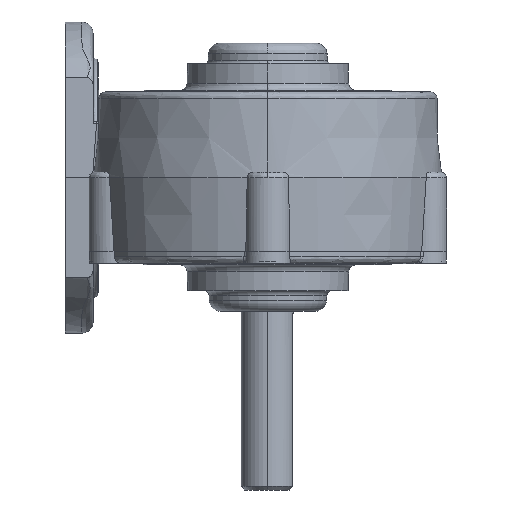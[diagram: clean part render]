
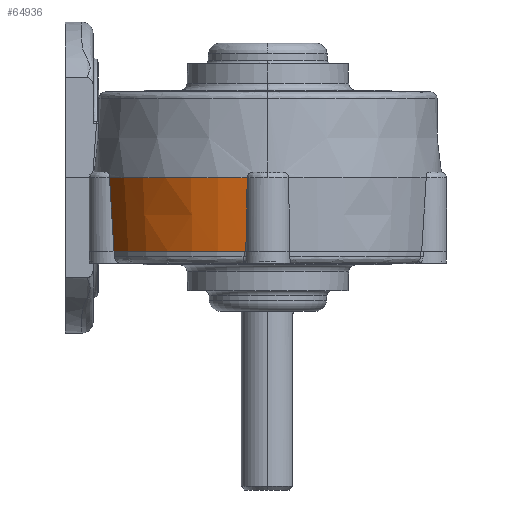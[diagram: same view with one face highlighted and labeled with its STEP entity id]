
A CAD part, front view. The second image highlights one B-rep face of the part: STEP entity #64936.
In plain terms, the highlighted conical face has half-angle 3.246 degrees and reference radius 49.251 mm.
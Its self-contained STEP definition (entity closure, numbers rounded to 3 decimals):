
#237 = ORIENTED_EDGE ( 'NONE', *, *, #16672, .F. ) ;
#1145 = CARTESIAN_POINT ( 'NONE',  ( 189.614, -8.315, 88.6 ) ) ;
#1998 = CARTESIAN_POINT ( 'NONE',  ( 151.615, 19.9, 74.716 ) ) ;
#12448 = ORIENTED_EDGE ( 'NONE', *, *, #54910, .T. ) ;
#14091 = DIRECTION ( 'NONE',  ( 0., 0., 1. ) ) ;
#15190 = CIRCLE ( 'NONE', #27227, 48.07 ) ;
#16672 = EDGE_CURVE ( 'NONE', #45545, #38196, #24346, .T. ) ;
#17129 = CARTESIAN_POINT ( 'NONE',  ( 189.222, -7.076, 67.772 ) ) ;
#17985 = EDGE_CURVE ( 'NONE', #49305, #45545, #15190, .T. ) ;
#18829 = DIRECTION ( 'NONE',  ( 0., -1., 0. ) ) ;
#20211 = EDGE_LOOP ( 'NONE', ( #32686, #12448, #237, #65364 ) ) ;
#22078 = CONICAL_SURFACE ( 'NONE', #83107, 49.251, 0.057 ) ;
#23757 = FACE_OUTER_BOUND ( 'NONE', #20211, .T. ) ;
#24346 = B_SPLINE_CURVE_WITH_KNOTS ( 'NONE', 3,
 ( #75081, #1998, #92624, #34600 ),
 .UNSPECIFIED., .F., .F.,
 ( 4, 4 ),
 ( 0., 0.021 ),
 .UNSPECIFIED. ) ;
#26355 = CARTESIAN_POINT ( 'NONE',  ( 195.441, 40.59, 67.772 ) ) ;
#27227 = AXIS2_PLACEMENT_3D ( 'NONE', #26355, #42862, #18829 ) ;
#31259 = DIRECTION ( 'NONE',  ( 0., -1., 0. ) ) ;
#32686 = ORIENTED_EDGE ( 'NONE', *, *, #47555, .T. ) ;
#32957 = DIRECTION ( 'NONE',  ( 0., 0., -1. ) ) ;
#33416 = CARTESIAN_POINT ( 'NONE',  ( 189.614, -8.315, 88.6 ) ) ;
#33686 = B_SPLINE_CURVE_WITH_KNOTS ( 'NONE', 3,
 ( #17129, #74214, #40684, #1145 ),
 .UNSPECIFIED., .F., .F.,
 ( 4, 4 ),
 ( 0., 0.021 ),
 .UNSPECIFIED. ) ;
#34600 = CARTESIAN_POINT ( 'NONE',  ( 150.73, 19.936, 88.6 ) ) ;
#38196 = VERTEX_POINT ( 'NONE', #58723 ) ;
#40684 = CARTESIAN_POINT ( 'NONE',  ( 189.433, -7.897, 81.659 ) ) ;
#42862 = DIRECTION ( 'NONE',  ( 0., 0., -1. ) ) ;
#45545 = VERTEX_POINT ( 'NONE', #66932 ) ;
#47555 = EDGE_CURVE ( 'NONE', #49305, #76487, #33686, .T. ) ;
#49305 = VERTEX_POINT ( 'NONE', #93983 ) ;
#54910 = EDGE_CURVE ( 'NONE', #76487, #38196, #61748, .T. ) ;
#57455 = DIRECTION ( 'NONE',  ( 1., 0., 0. ) ) ;
#58723 = CARTESIAN_POINT ( 'NONE',  ( 150.73, 19.936, 88.6 ) ) ;
#61748 = CIRCLE ( 'NONE', #100901, 49.251 ) ;
#64936 = ADVANCED_FACE ( 'NONE', ( #23757 ), #22078, .T. ) ;
#65364 = ORIENTED_EDGE ( 'NONE', *, *, #17985, .F. ) ;
#66932 = CARTESIAN_POINT ( 'NONE',  ( 152.03, 19.946, 67.772 ) ) ;
#73428 = CARTESIAN_POINT ( 'NONE',  ( 195.441, 40.59, 88.6 ) ) ;
#74214 = CARTESIAN_POINT ( 'NONE',  ( 189.306, -7.484, 74.716 ) ) ;
#75081 = CARTESIAN_POINT ( 'NONE',  ( 152.03, 19.946, 67.772 ) ) ;
#76487 = VERTEX_POINT ( 'NONE', #33416 ) ;
#83107 = AXIS2_PLACEMENT_3D ( 'NONE', #87154, #14091, #31259 ) ;
#87154 = CARTESIAN_POINT ( 'NONE',  ( 195.441, 40.59, 88.6 ) ) ;
#92624 = CARTESIAN_POINT ( 'NONE',  ( 151.183, 19.893, 81.659 ) ) ;
#93983 = CARTESIAN_POINT ( 'NONE',  ( 189.222, -7.076, 67.772 ) ) ;
#100901 = AXIS2_PLACEMENT_3D ( 'NONE', #73428, #32957, #57455 ) ;
